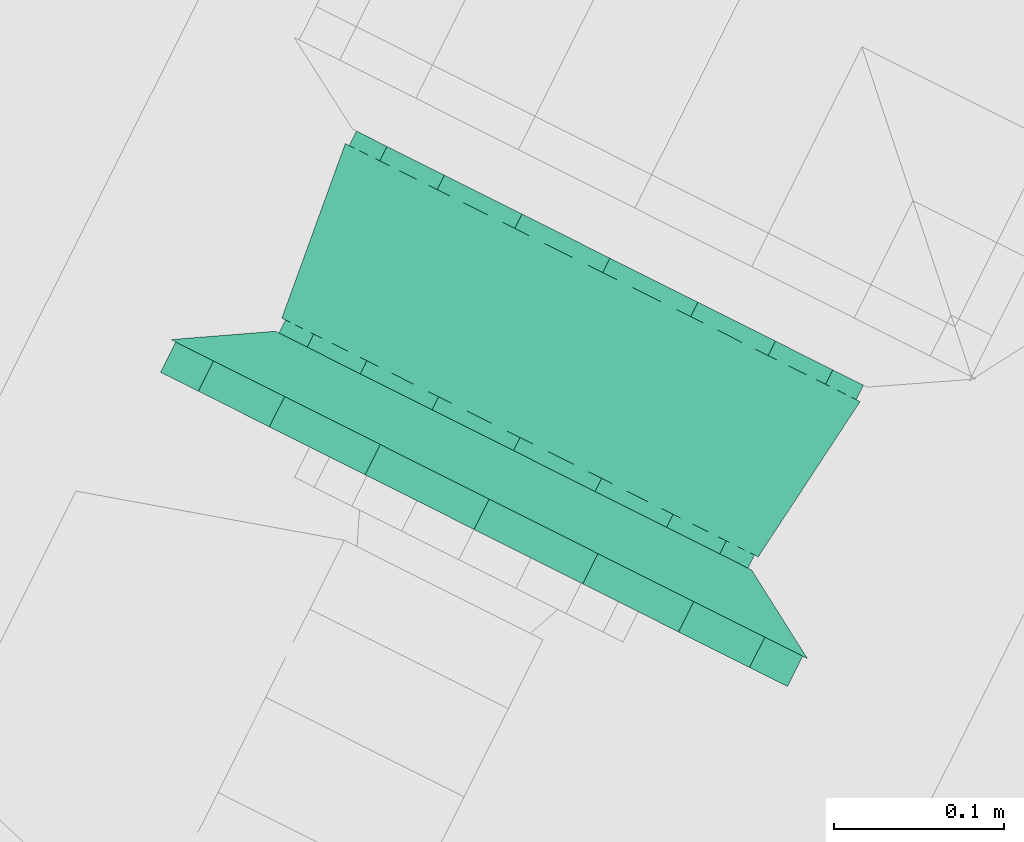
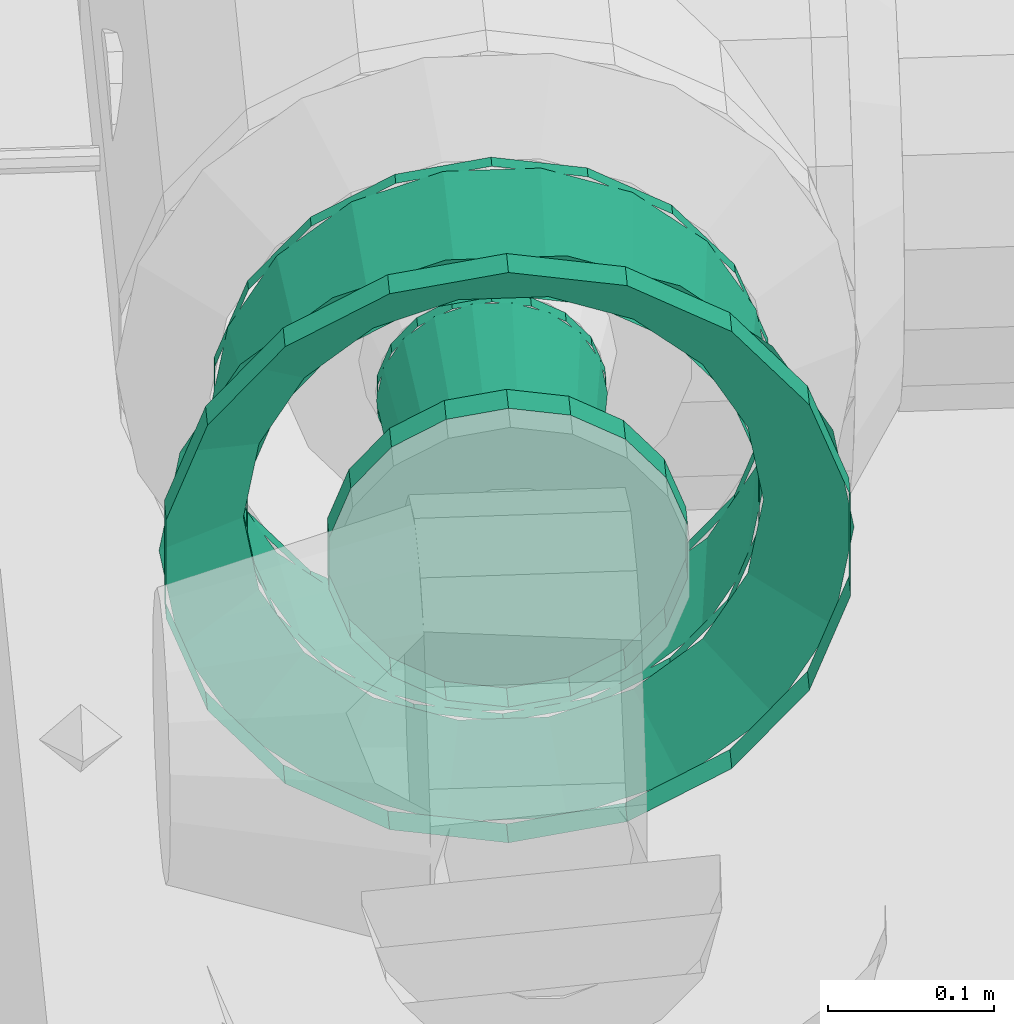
# One storey, part 110 of 206: 2 flow fittings.
"""IFC2X3 building model written with IfcOpenShell, lengths in metres."""

from ifc_helpers import new_model, si_unit, derived_unit, direction, frame, origin, place, context, subcontext, project, spatial, face_set, surface_model, source, transform, mapped, material, type_object, type_shapes, element, save


model = new_model("IFC2X3")

# Units and contexts
model_context = context("Model", 3, precision=5.2338327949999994e-05, world=origin(), true_north=direction((0.0, 1.0)))
body_context = subcontext(model_context, "Body", "Model", "MODEL_VIEW")
ifc_project = project(units=[si_unit("LENGTHUNIT", "METRE"), si_unit("AREAUNIT", "SQUARE_METRE"), si_unit("VOLUMEUNIT", "CUBIC_METRE"), si_unit("MASSUNIT", "GRAM", prefix="KILO"), si_unit("PLANEANGLEUNIT", "RADIAN"), derived_unit("THERMALTRANSMITTANCEUNIT", [(si_unit("MASSUNIT", "GRAM", prefix="KILO"), 1), (si_unit("THERMODYNAMICTEMPERATUREUNIT", "KELVIN"), -1), (si_unit("TIMEUNIT", "SECOND"), -3)])], contexts=[model_context])

# Site, building, storey
site_placement = place(None, frame((0.0, 0.0, 0.0), z_axis=(0.0, 0.0, 1.0), x_axis=(0.8939966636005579, -0.4480736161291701, 0.0)))
site = spatial("IfcSite", under=ifc_project, at=site_placement, Name="Default", CompositionType="ELEMENT")
building_placement = place(site_placement, origin())
building = spatial("IfcBuilding", under=site, at=building_placement, CompositionType="ELEMENT")
storey_placement = place(building_placement, origin())
storey = spatial("IfcBuildingStorey", under=building, at=storey_placement, Name="Erdgeschoss", CompositionType="ELEMENT", Elevation=0.0)

# Flow fittings
ifc_material = material(Name="IfcSurfaceStyle #1741")
distribution_element_type_1 = type_object("IfcDistributionElementType", Name="Flansch 318379:Flansch 318379", material=ifc_material)
shared_shape_1 = source(origin(), body_context, "Body", "SurfaceModel", [
    surface_model("IfcFaceBasedSurfaceModel", [(23.08485389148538, 6.22496109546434, 2.4639999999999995), (23.122476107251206, 6.22496109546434, 2.4573661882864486), (23.122476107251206, 6.2449610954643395, 2.4573661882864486), (23.08485389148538, 6.244961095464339, 2.4639999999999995), (23.1555605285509, 6.22496109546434, 2.4382648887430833), (23.1555605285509, 6.2449610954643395, 2.4382648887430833), (23.180116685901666, 6.22496109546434, 2.4089999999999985), (23.180116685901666, 6.2449610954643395, 2.4089999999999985), (23.19318274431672, 6.22496109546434, 2.373101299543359), (23.19318274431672, 6.2449610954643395, 2.373101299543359), (23.19318274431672, 6.22496109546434, 2.334898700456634), (23.19318274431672, 6.2449610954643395, 2.334898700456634), (23.18011668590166, 6.22496109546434, 2.2989999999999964), (23.18011668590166, 6.2449610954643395, 2.2989999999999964), (23.155560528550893, 6.22496109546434, 2.26973511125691), (23.155560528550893, 6.2449610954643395, 2.26973511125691), (23.122476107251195, 6.22496109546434, 2.2506338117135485), (23.122476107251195, 6.2449610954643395, 2.2506338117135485), (23.084853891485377, 6.22496109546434, 2.243999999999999), (23.084853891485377, 6.2449610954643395, 2.243999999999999), (23.04723167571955, 6.22496109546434, 2.2506338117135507), (23.04723167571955, 6.2449610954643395, 2.2506338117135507), (23.014147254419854, 6.22496109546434, 2.269735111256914), (23.014147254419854, 6.2449610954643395, 2.269735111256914), (22.989591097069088, 6.22496109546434, 2.2990000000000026), (22.989591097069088, 6.2449610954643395, 2.2990000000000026), (22.97652503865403, 6.22496109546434, 2.334898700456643), (22.97652503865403, 6.2449610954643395, 2.334898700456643), (22.97652503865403, 6.22496109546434, 2.373101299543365), (22.97652503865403, 6.2449610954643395, 2.373101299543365), (22.989591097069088, 6.22496109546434, 2.4090000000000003), (22.989591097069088, 6.2449610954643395, 2.4090000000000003), (23.01414725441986, 6.22496109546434, 2.438264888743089), (23.01414725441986, 6.2449610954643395, 2.438264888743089), (23.047231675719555, 6.22496109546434, 2.457366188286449), (23.047231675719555, 6.2449610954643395, 2.457366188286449), (23.084853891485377, 6.244961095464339, 2.3539999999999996), (23.150353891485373, 6.244961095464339, 2.3539999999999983), (23.14640375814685, 6.244961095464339, 2.331597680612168), (23.13855732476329, 6.276961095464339, 2.334453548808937), (23.142003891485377, 6.2769610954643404, 2.3540000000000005), (23.13502980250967, 6.2449610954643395, 2.311897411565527), (23.12863333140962, 6.2769610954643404, 2.31726468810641), (23.117603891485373, 6.2449610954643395, 2.2972753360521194), (23.11342889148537, 6.2769610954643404, 2.3045066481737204), (23.09622784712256, 6.2449610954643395, 2.2894950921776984), (23.09477788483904, 6.2769610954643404, 2.297718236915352), (23.073479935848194, 6.2449610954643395, 2.2894950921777), (23.074929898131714, 6.2769610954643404, 2.2977182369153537), (23.05210389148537, 6.2449610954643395, 2.297275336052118), (23.056278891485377, 6.2769610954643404, 2.304506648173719), (23.034677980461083, 6.2449610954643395, 2.3118974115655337), (23.041074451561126, 6.2769610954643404, 2.317264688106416), (23.0233040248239, 6.2449610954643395, 2.331597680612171), (23.031150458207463, 6.2769610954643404, 2.334453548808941), (23.019353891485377, 6.244961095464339, 2.354000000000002), (23.027703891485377, 6.276961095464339, 2.3540000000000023), (23.0233040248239, 6.244961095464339, 2.376402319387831), (23.03115045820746, 6.276961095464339, 2.373546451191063), (23.034677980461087, 6.2449610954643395, 2.396102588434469), (23.041074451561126, 6.2769610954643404, 2.390735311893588), (23.052103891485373, 6.2449610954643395, 2.410724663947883), (23.05627889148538, 6.2769610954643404, 2.4034933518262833), (23.073479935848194, 6.2449610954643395, 2.418504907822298), (23.074929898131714, 6.2769610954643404, 2.4102817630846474), (23.096227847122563, 6.2449610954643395, 2.4185049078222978), (23.09477788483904, 6.2769610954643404, 2.4102817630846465), (23.117603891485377, 6.2449610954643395, 2.4107246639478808), (23.113428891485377, 6.2769610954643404, 2.4034933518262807), (23.13502980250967, 6.2449610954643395, 2.3961025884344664), (23.128633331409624, 6.2769610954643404, 2.3907353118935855), (23.146403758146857, 6.2449610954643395, 2.3764023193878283), (23.13855732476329, 6.2769610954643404, 2.37354645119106), (23.08485389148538, 6.22496109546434, 2.564), (23.156678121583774, 6.22496109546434, 2.551335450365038), (23.156678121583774, 6.2449610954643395, 2.551335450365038), (23.084853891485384, 6.244961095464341, 2.5639999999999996), (23.219839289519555, 6.22496109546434, 2.514869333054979), (23.219839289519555, 6.2449610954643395, 2.514869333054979), (23.266719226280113, 6.22496109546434, 2.4589999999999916), (23.266719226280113, 6.2449610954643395, 2.4589999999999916), (23.291663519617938, 6.22496109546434, 2.3904661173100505), (23.291663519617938, 6.2449610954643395, 2.3904661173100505), (23.291663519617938, 6.22496109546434, 2.317533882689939), (23.291663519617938, 6.2449610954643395, 2.317533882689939), (23.266719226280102, 6.22496109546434, 2.248999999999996), (23.266719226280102, 6.2449610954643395, 2.248999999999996), (23.219839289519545, 6.22496109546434, 2.1931306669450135), (23.219839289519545, 6.2449610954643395, 2.1931306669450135), (23.15667812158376, 6.22496109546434, 2.156664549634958), (23.15667812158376, 6.2449610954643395, 2.156664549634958), (23.084853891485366, 6.22496109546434, 2.1439999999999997), (23.084853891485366, 6.2449610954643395, 2.1439999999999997), (23.013029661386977, 6.22496109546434, 2.156664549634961), (23.013029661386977, 6.2449610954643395, 2.156664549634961), (22.949868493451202, 6.22496109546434, 2.1931306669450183), (22.949868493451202, 6.2449610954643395, 2.1931306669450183), (22.902988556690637, 6.22496109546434, 2.249000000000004), (22.902988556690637, 6.2449610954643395, 2.249000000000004), (22.878044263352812, 6.22496109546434, 2.3175338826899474), (22.878044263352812, 6.2449610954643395, 2.3175338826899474), (22.878044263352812, 6.22496109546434, 2.3904661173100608), (22.878044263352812, 6.2449610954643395, 2.3904661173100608), (22.902988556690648, 6.22496109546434, 2.4590000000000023), (22.902988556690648, 6.2449610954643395, 2.4590000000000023), (22.949868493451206, 6.22496109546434, 2.514869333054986), (22.949868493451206, 6.2449610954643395, 2.514869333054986), (23.01302966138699, 6.22496109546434, 2.5513354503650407), (23.01302966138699, 6.2449610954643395, 2.5513354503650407), (23.294853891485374, 6.2449610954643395, 2.353999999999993), (23.28218934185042, 6.2449610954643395, 2.2821757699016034), (23.23252658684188, 6.2769610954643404, 2.3002515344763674), (23.24200389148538, 6.276961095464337, 2.353999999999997), (23.245723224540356, 6.2449610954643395, 2.2190146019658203), (23.20523777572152, 6.2769610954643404, 2.2529859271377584), (23.189853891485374, 6.244961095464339, 2.172134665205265), (23.163428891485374, 6.276961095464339, 2.217904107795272), (23.121320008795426, 6.2449610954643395, 2.147190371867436), (23.112142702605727, 6.2769610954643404, 2.199237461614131), (23.048387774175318, 6.2449610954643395, 2.1471903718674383), (23.057565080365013, 6.2769610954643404, 2.199237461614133), (22.97985389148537, 6.2449610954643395, 2.1721346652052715), (23.006278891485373, 6.2769610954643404, 2.2179041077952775), (22.923984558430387, 6.2449610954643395, 2.2190146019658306), (22.964470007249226, 6.2769610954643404, 2.2529859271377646), (22.88751844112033, 6.244961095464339, 2.282175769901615), (22.93718119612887, 6.276961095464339, 2.3002515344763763), (22.87485389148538, 6.2449610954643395, 2.3540000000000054), (22.927703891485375, 6.2769610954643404, 2.354000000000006), (22.887518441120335, 6.2449610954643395, 2.425824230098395), (22.93718119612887, 6.2769610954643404, 2.407748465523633), (22.923984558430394, 6.244961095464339, 2.488985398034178), (22.96447000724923, 6.276961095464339, 2.4550140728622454), (22.979853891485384, 6.2449610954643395, 2.5358653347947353), (23.006278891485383, 6.2769610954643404, 2.490095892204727), (23.048387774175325, 6.2449610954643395, 2.5608096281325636), (23.057565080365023, 6.2769610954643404, 2.50876253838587), (23.12132000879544, 6.2449610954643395, 2.5608096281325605), (23.112142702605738, 6.2769610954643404, 2.5087625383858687), (23.189853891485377, 6.2449610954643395, 2.5358653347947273), (23.16342889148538, 6.2769610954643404, 2.490095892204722), (23.245723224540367, 6.2449610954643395, 2.488985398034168), (23.205237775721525, 6.2769610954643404, 2.455014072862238), (23.28218934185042, 6.244961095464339, 2.425824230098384), (23.23252658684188, 6.276961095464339, 2.4077484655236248)], [face_set([[[0, 1, 2, 3]], [[1, 4, 5, 2]], [[4, 6, 7, 5]], [[6, 8, 9, 7]], [[8, 10, 11, 9]], [[10, 12, 13, 11]], [[12, 14, 15, 13]], [[14, 16, 17, 15]], [[16, 18, 19, 17]], [[18, 20, 21, 19]], [[20, 22, 23, 21]], [[22, 24, 25, 23]], [[24, 26, 27, 25]], [[26, 28, 29, 27]], [[28, 30, 31, 29]], [[30, 32, 33, 31]], [[32, 34, 35, 33]], [[34, 0, 3, 35]], [[36, 35, 3]], [[36, 33, 35]], [[36, 31, 33]], [[36, 29, 31]], [[36, 27, 29]], [[36, 25, 27]], [[36, 23, 25]], [[36, 21, 23]], [[36, 19, 21]], [[36, 17, 19]], [[36, 15, 17]], [[36, 13, 15]], [[36, 11, 13]], [[36, 9, 11]], [[36, 7, 9]], [[36, 5, 7]], [[36, 2, 5]], [[36, 3, 2]], [[37, 38, 39, 40]], [[38, 41, 42, 39]], [[41, 43, 44, 42]], [[43, 45, 46, 44]], [[45, 47, 48, 46]], [[47, 49, 50, 48]], [[49, 51, 52, 50]], [[51, 53, 54, 52]], [[53, 55, 56, 54]], [[55, 57, 58, 56]], [[57, 59, 60, 58]], [[59, 61, 62, 60]], [[61, 63, 64, 62]], [[63, 65, 66, 64]], [[65, 67, 68, 66]], [[67, 69, 70, 68]], [[69, 71, 72, 70]], [[71, 37, 40, 72]], [[73, 74, 75, 76]], [[74, 77, 78, 75]], [[77, 79, 80, 78]], [[79, 81, 82, 80]], [[81, 83, 84, 82]], [[83, 85, 86, 84]], [[85, 87, 88, 86]], [[87, 89, 90, 88]], [[89, 91, 92, 90]], [[91, 93, 94, 92]], [[93, 95, 96, 94]], [[95, 97, 98, 96]], [[97, 99, 100, 98]], [[99, 101, 102, 100]], [[101, 103, 104, 102]], [[103, 105, 106, 104]], [[105, 107, 108, 106]], [[107, 73, 76, 108]], [[109, 110, 111, 112]], [[110, 113, 114, 111]], [[113, 115, 116, 114]], [[115, 117, 118, 116]], [[117, 119, 120, 118]], [[119, 121, 122, 120]], [[121, 123, 124, 122]], [[123, 125, 126, 124]], [[125, 127, 128, 126]], [[127, 129, 130, 128]], [[129, 131, 132, 130]], [[131, 133, 134, 132]], [[133, 135, 136, 134]], [[135, 137, 138, 136]], [[137, 139, 140, 138]], [[139, 141, 142, 140]], [[141, 143, 144, 142]], [[143, 109, 112, 144]]])]),
])
type_shapes(distribution_element_type_1, [shared_shape_1])
flow_fitting_1_placement = place(storey_placement, origin())
element("IfcFlowFitting", 1, at=flow_fitting_1_placement, inside=storey, type_object=distribution_element_type_1, material=ifc_material, Name="Flansch", ObjectType="Flansch", context=body_context, shape_type="MappedRepresentation", body=[
    mapped(shared_shape_1, transform((0.0, 0.0, 0.0), scale=1.0)),
])
distribution_element_type_2 = type_object("IfcDistributionElementType", Name="Übergangsstück 318402:Übergangsstück 318402", material=ifc_material)
shared_shape_2 = source(origin(), body_context, "Body", "SurfaceModel", [
    surface_model("IfcFaceBasedSurfaceModel", [(23.08485389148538, 6.403961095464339, 2.4238500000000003), (23.060963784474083, 6.403961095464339, 2.4196375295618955), (23.060963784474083, 6.3944319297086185, 2.4196375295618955), (23.08485389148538, 6.3944319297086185, 2.4238500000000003), (23.039955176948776, 6.403961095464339, 2.4075082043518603), (23.039955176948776, 6.3944319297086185, 2.4075082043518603), (23.024362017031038, 6.403961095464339, 2.388925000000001), (23.024362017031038, 6.3944319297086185, 2.388925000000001), (23.016065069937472, 6.403961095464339, 2.366129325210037), (23.016065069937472, 6.3944319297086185, 2.366129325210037), (23.016065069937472, 6.403961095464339, 2.341870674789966), (23.016065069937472, 6.3944319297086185, 2.341870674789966), (23.024362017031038, 6.403961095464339, 2.3190749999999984), (23.024362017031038, 6.3944319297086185, 2.3190749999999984), (23.039955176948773, 6.403961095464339, 2.300491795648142), (23.039955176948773, 6.3944319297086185, 2.300491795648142), (23.060963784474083, 6.403961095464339, 2.2883624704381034), (23.060963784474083, 6.3944319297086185, 2.2883624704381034), (23.08485389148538, 6.403961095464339, 2.2841499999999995), (23.08485389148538, 6.3944319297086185, 2.2841499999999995), (23.108743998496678, 6.403961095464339, 2.2883624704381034), (23.108743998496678, 6.3944319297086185, 2.2883624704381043), (23.129752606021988, 6.403961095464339, 2.300491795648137), (23.129752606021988, 6.3944319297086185, 2.300491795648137), (23.145345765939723, 6.403961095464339, 2.319075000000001), (23.145345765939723, 6.3944319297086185, 2.319075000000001), (23.153642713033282, 6.403961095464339, 2.341870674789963), (23.153642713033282, 6.3944319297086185, 2.341870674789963), (23.153642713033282, 6.403961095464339, 2.366129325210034), (23.153642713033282, 6.3944319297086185, 2.366129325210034), (23.145345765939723, 6.403961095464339, 2.3889249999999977), (23.145345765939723, 6.3944319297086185, 2.3889249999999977), (23.129752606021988, 6.403961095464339, 2.4075082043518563), (23.129752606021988, 6.3944319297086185, 2.4075082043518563), (23.10874399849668, 6.403961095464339, 2.419637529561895), (23.10874399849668, 6.3944319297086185, 2.419637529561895), (23.084853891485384, 6.403961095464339, 2.5238499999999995), (23.026761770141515, 6.403961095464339, 2.5136067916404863), (23.026761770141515, 6.3944319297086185, 2.5136067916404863), (23.084853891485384, 6.3944319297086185, 2.5238499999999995), (22.97567641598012, 6.403961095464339, 2.4841126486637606), (22.97567641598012, 6.3944319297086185, 2.4841126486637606), (22.937759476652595, 6.403961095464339, 2.4389250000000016), (22.937759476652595, 6.3944319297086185, 2.4389250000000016), (22.917584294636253, 6.403961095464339, 2.3834941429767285), (22.917584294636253, 6.3944319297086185, 2.3834941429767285), (22.917584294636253, 6.403961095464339, 2.324505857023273), (22.917584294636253, 6.3944319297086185, 2.324505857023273), (22.937759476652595, 6.403961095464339, 2.2690750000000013), (22.937759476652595, 6.3944319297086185, 2.2690750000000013), (22.97567641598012, 6.403961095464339, 2.2238873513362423), (22.97567641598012, 6.3944319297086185, 2.2238873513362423), (23.026761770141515, 6.403961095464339, 2.194393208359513), (23.026761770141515, 6.3944319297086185, 2.194393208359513), (23.084853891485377, 6.403961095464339, 2.18415), (23.084853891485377, 6.3944319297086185, 2.18415), (23.14294601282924, 6.403961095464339, 2.194393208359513), (23.14294601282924, 6.3944319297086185, 2.194393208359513), (23.19403136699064, 6.403961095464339, 2.2238873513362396), (23.19403136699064, 6.3944319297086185, 2.2238873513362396), (23.231948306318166, 6.403961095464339, 2.2690749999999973), (23.231948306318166, 6.3944319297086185, 2.2690749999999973), (23.2521234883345, 6.403961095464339, 2.324505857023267), (23.2521234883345, 6.3944319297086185, 2.324505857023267), (23.2521234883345, 6.403961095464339, 2.3834941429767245), (23.2521234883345, 6.3944319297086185, 2.3834941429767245), (23.231948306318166, 6.403961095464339, 2.438924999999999), (23.231948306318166, 6.3944319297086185, 2.438924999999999), (23.19403136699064, 6.403961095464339, 2.4841126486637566), (23.19403136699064, 6.3944319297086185, 2.4841126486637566), (23.142946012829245, 6.403961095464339, 2.513606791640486), (23.142946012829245, 6.3944319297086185, 2.513606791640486), (23.015003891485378, 6.3944319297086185, 2.354000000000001), (23.019216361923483, 6.3944319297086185, 2.330109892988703), (23.031150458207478, 6.285580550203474, 2.3344535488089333), (23.027703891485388, 6.285580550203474, 2.3539999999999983), (23.031345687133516, 6.3944319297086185, 2.3091012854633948), (23.04107445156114, 6.285580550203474, 2.31726468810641), (23.049928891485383, 6.3944319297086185, 2.2935081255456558), (23.056278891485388, 6.285580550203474, 2.3045066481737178), (23.07272456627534, 6.3944319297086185, 2.285211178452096), (23.074929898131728, 6.285580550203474, 2.297718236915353), (23.096983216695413, 6.3944319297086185, 2.285211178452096), (23.094777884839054, 6.285580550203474, 2.2977182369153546), (23.119778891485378, 6.3944319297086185, 2.293508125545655), (23.113428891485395, 6.285580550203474, 2.304506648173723), (23.138362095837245, 6.3944319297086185, 2.3091012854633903), (23.12863333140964, 6.285580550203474, 2.3172646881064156), (23.150491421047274, 6.3944319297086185, 2.3301098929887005), (23.138557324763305, 6.285580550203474, 2.3344535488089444), (23.154703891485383, 6.3944319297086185, 2.353999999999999), (23.142003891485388, 6.285580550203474, 2.354000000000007), (23.150491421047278, 6.3944319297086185, 2.377890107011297), (23.138557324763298, 6.285580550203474, 2.3735464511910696), (23.13836209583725, 6.3944319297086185, 2.398898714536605), (23.128633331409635, 6.285580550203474, 2.3907353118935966), (23.119778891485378, 6.3944319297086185, 2.414491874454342), (23.11342889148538, 6.285580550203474, 2.4034933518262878), (23.096983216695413, 6.3944319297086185, 2.4227888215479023), (23.094777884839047, 6.285580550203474, 2.410281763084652), (23.072724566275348, 6.3944319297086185, 2.422788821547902), (23.074929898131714, 6.285580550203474, 2.410281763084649), (23.049928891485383, 6.3944319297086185, 2.414491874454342), (23.05627889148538, 6.285580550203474, 2.403493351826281), (23.031345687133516, 6.3944319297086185, 2.3988987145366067), (23.04107445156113, 6.285580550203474, 2.390735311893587), (23.019216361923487, 6.3944319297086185, 2.3778901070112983), (23.031150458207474, 6.285580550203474, 2.373546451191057), (23.08485389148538, 6.285580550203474, 2.4111500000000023), (23.06530744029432, 6.285580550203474, 2.4077034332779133), (23.06530744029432, 6.276961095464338, 2.4077034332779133), (23.08485389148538, 6.276961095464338, 2.4111500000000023), (23.048118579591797, 6.285580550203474, 2.3977794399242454), (23.048118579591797, 6.276961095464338, 2.3977794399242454), (23.035360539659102, 6.285580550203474, 2.382574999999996), (23.035360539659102, 6.276961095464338, 2.382574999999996), (23.02857212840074, 6.285580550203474, 2.3639239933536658), (23.02857212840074, 6.276961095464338, 2.3639239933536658), (23.02857212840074, 6.285580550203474, 2.344076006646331), (23.02857212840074, 6.276961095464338, 2.344076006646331), (23.035360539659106, 6.285580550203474, 2.325424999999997), (23.035360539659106, 6.276961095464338, 2.325424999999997), (23.048118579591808, 6.285580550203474, 2.3102205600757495), (23.048118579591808, 6.276961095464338, 2.3102205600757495), (23.065307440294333, 6.285580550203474, 2.3002965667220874), (23.065307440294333, 6.276961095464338, 2.3002965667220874), (23.084853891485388, 6.285580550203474, 2.2968500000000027), (23.084853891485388, 6.276961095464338, 2.2968500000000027), (23.104400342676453, 6.285580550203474, 2.3002965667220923), (23.104400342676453, 6.276961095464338, 2.3002965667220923), (23.12158920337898, 6.285580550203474, 2.3102205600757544), (23.12158920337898, 6.276961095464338, 2.3102205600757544), (23.134347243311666, 6.285580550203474, 2.325425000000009), (23.134347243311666, 6.276961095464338, 2.325425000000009), (23.141135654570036, 6.285580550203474, 2.3440760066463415), (23.141135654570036, 6.276961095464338, 2.3440760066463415), (23.141135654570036, 6.285580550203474, 2.363923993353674), (23.141135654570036, 6.276961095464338, 2.363923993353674), (23.134347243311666, 6.285580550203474, 2.382575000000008), (23.134347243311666, 6.276961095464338, 2.382575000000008), (23.121589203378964, 6.285580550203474, 2.3977794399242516), (23.121589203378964, 6.276961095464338, 2.3977794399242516), (23.104400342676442, 6.285580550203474, 2.407703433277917), (23.104400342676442, 6.276961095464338, 2.407703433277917), (22.91500389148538, 6.3944319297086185, 2.354000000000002), (22.925247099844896, 6.3944319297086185, 2.2959078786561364), (22.937181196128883, 6.285580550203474, 2.3002515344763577), (22.927703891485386, 6.285580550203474, 2.353999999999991), (22.954741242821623, 6.3944319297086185, 2.244822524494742), (22.964470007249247, 6.285580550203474, 2.25298592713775), (22.999928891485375, 6.3944319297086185, 2.2069055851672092), (23.0062788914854, 6.285580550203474, 2.2179041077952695), (23.05535974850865, 6.3944319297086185, 2.1867304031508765), (23.057565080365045, 6.285580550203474, 2.199237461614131), (23.114348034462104, 6.3944319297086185, 2.186730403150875), (23.112142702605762, 6.285580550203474, 2.199237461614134), (23.169778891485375, 6.3944319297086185, 2.2069055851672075), (23.163428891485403, 6.285580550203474, 2.2179041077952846), (23.21496654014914, 6.3944319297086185, 2.2448225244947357), (23.205237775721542, 6.285580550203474, 2.252985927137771), (23.244460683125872, 6.3944319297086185, 2.295907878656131), (23.232526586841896, 6.285580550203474, 2.3002515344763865), (23.25470389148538, 6.3944319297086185, 2.353999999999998), (23.24200389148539, 6.285580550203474, 2.3540000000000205), (23.24446068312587, 6.3944319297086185, 2.412092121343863), (23.23252658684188, 6.285580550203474, 2.407748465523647), (23.214966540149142, 6.3944319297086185, 2.463177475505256), (23.205237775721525, 6.285580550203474, 2.4550140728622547), (23.16977889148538, 6.3944319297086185, 2.5010944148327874), (23.163428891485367, 6.285580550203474, 2.490095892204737), (23.11434803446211, 6.3944319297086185, 2.521269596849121), (23.112142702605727, 6.285580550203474, 2.508762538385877), (23.05535974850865, 6.3944319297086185, 2.5212695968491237), (23.057565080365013, 6.285580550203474, 2.5087625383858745), (22.999928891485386, 6.3944319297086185, 2.5010944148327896), (23.006278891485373, 6.285580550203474, 2.490095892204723), (22.954741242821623, 6.3944319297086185, 2.463177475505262), (22.96447000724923, 6.285580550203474, 2.455014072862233), (22.925247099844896, 6.3944319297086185, 2.412092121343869), (22.93718119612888, 6.285580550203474, 2.40774846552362), (23.084853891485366, 6.285580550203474, 2.511150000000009), (23.03110542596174, 6.285580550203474, 2.501672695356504), (23.03110542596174, 6.276961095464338, 2.501672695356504), (23.084853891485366, 6.276961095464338, 2.511150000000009), (22.983839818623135, 6.285580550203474, 2.4743838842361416), (22.983839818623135, 6.276961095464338, 2.4743838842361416), (22.948757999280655, 6.285580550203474, 2.4325749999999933), (22.948757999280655, 6.276961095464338, 2.4325749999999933), (22.930091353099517, 6.285580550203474, 2.381288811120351), (22.930091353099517, 6.276961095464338, 2.381288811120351), (22.930091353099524, 6.285580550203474, 2.3267111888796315), (22.930091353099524, 6.276961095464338, 2.3267111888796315), (22.948757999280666, 6.285580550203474, 2.275424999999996), (22.948757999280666, 6.276961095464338, 2.275424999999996), (22.983839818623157, 6.285580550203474, 2.2336161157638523), (22.983839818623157, 6.276961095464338, 2.2336161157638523), (23.031105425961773, 6.285580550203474, 2.2063273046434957), (23.031105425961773, 6.276961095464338, 2.2063273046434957), (23.084853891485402, 6.285580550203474, 2.1968500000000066), (23.084853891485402, 6.276961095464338, 2.1968500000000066), (23.13860235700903, 6.285580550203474, 2.2063273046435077), (23.13860235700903, 6.276961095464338, 2.2063273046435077), (23.185867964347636, 6.285580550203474, 2.2336161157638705), (23.185867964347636, 6.276961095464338, 2.2336161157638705), (23.22094978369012, 6.285580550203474, 2.2754250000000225), (23.22094978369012, 6.276961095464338, 2.2754250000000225), (23.23961642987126, 6.285580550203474, 2.326711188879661), (23.23961642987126, 6.276961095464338, 2.326711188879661), (23.23961642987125, 6.285580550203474, 2.3812888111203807), (23.23961642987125, 6.276961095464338, 2.3812888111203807), (23.220949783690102, 6.285580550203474, 2.432575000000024), (23.220949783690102, 6.276961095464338, 2.432575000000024), (23.185867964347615, 6.285580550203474, 2.4743838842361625), (23.185867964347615, 6.276961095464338, 2.4743838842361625), (23.138602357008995, 6.285580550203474, 2.501672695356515), (23.138602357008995, 6.276961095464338, 2.501672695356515)], [face_set([[[0, 1, 2, 3]], [[1, 4, 5, 2]], [[4, 6, 7, 5]], [[6, 8, 9, 7]], [[8, 10, 11, 9]], [[10, 12, 13, 11]], [[12, 14, 15, 13]], [[14, 16, 17, 15]], [[16, 18, 19, 17]], [[18, 20, 21, 19]], [[20, 22, 23, 21]], [[22, 24, 25, 23]], [[24, 26, 27, 25]], [[26, 28, 29, 27]], [[28, 30, 31, 29]], [[30, 32, 33, 31]], [[32, 34, 35, 33]], [[34, 0, 3, 35]], [[36, 37, 38, 39]], [[37, 40, 41, 38]], [[40, 42, 43, 41]], [[42, 44, 45, 43]], [[44, 46, 47, 45]], [[46, 48, 49, 47]], [[48, 50, 51, 49]], [[50, 52, 53, 51]], [[52, 54, 55, 53]], [[54, 56, 57, 55]], [[56, 58, 59, 57]], [[58, 60, 61, 59]], [[60, 62, 63, 61]], [[62, 64, 65, 63]], [[64, 66, 67, 65]], [[66, 68, 69, 67]], [[68, 70, 71, 69]], [[70, 36, 39, 71]], [[72, 73, 74, 75]], [[73, 76, 77, 74]], [[76, 78, 79, 77]], [[78, 80, 81, 79]], [[80, 82, 83, 81]], [[82, 84, 85, 83]], [[84, 86, 87, 85]], [[86, 88, 89, 87]], [[88, 90, 91, 89]], [[90, 92, 93, 91]], [[92, 94, 95, 93]], [[94, 96, 97, 95]], [[96, 98, 99, 97]], [[98, 100, 101, 99]], [[100, 102, 103, 101]], [[102, 104, 105, 103]], [[104, 106, 107, 105]], [[106, 72, 75, 107]], [[108, 109, 110, 111]], [[109, 112, 113, 110]], [[112, 114, 115, 113]], [[114, 116, 117, 115]], [[116, 118, 119, 117]], [[118, 120, 121, 119]], [[120, 122, 123, 121]], [[122, 124, 125, 123]], [[124, 126, 127, 125]], [[126, 128, 129, 127]], [[128, 130, 131, 129]], [[130, 132, 133, 131]], [[132, 134, 135, 133]], [[134, 136, 137, 135]], [[136, 138, 139, 137]], [[138, 140, 141, 139]], [[140, 142, 143, 141]], [[142, 108, 111, 143]], [[144, 145, 146, 147]], [[145, 148, 149, 146]], [[148, 150, 151, 149]], [[150, 152, 153, 151]], [[152, 154, 155, 153]], [[154, 156, 157, 155]], [[156, 158, 159, 157]], [[158, 160, 161, 159]], [[160, 162, 163, 161]], [[162, 164, 165, 163]], [[164, 166, 167, 165]], [[166, 168, 169, 167]], [[168, 170, 171, 169]], [[170, 172, 173, 171]], [[172, 174, 175, 173]], [[174, 176, 177, 175]], [[176, 178, 179, 177]], [[178, 144, 147, 179]], [[180, 181, 182, 183]], [[181, 184, 185, 182]], [[184, 186, 187, 185]], [[186, 188, 189, 187]], [[188, 190, 191, 189]], [[190, 192, 193, 191]], [[192, 194, 195, 193]], [[194, 196, 197, 195]], [[196, 198, 199, 197]], [[198, 200, 201, 199]], [[200, 202, 203, 201]], [[202, 204, 205, 203]], [[204, 206, 207, 205]], [[206, 208, 209, 207]], [[208, 210, 211, 209]], [[210, 212, 213, 211]], [[212, 214, 215, 213]], [[214, 180, 183, 215]]])]),
])
type_shapes(distribution_element_type_2, [shared_shape_2])
flow_fitting_2_placement = place(storey_placement, origin())
element("IfcFlowFitting", 2, at=flow_fitting_2_placement, inside=storey, type_object=distribution_element_type_2, material=ifc_material, Name="Übergangsstück", ObjectType="Übergangsstück", context=body_context, shape_type="MappedRepresentation", body=[
    mapped(shared_shape_2, transform((0.0, 0.0, 0.0), scale=1.0)),
])

save(model, "model.ifc")
